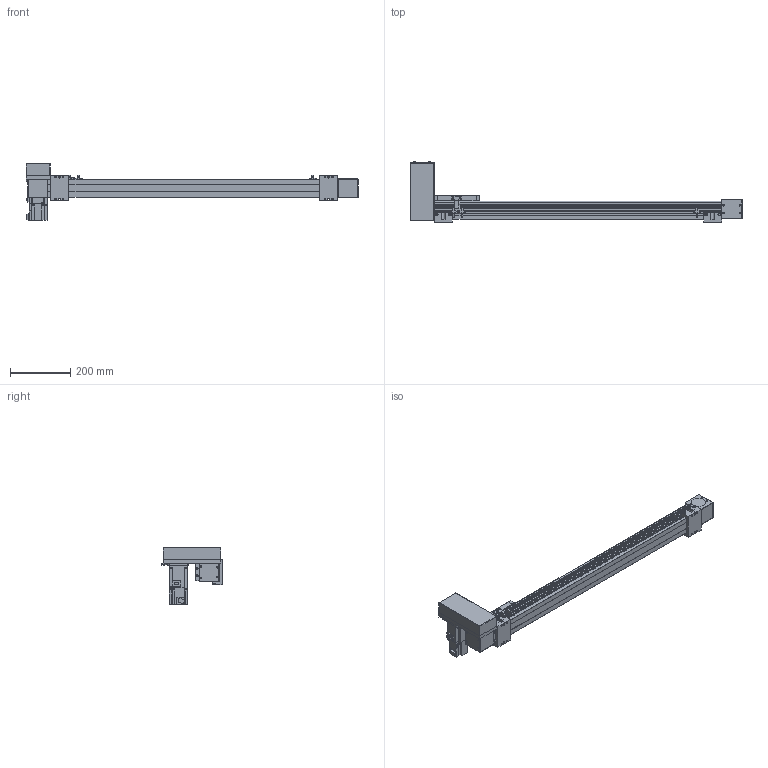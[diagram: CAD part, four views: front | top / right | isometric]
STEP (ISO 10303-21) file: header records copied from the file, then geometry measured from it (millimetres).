
FILE_DESCRIPTION(/* description */ ('STEP AP214'),/* implementation_level */ '2;1');
FILE_NAME(/* name */ 'SK60-P13-S800-RU-T40-C1-N(0)',/* time_stamp */ '2023-04-06T05:02:37+02:00',/* author */ ('License CC BY-ND 4.0'),/* organization */ ('CADENAS'),/* preprocessor_version */ 'ST-DEVELOPER v19.3',/* originating_system */ 'PARTsolutions',/* authorisation */ ' ');
FILE_SCHEMA (('AUTOMOTIVE_DESIGN {1 0 10303 214 3 1 1}'));
Length unit declared in the file: millimetre
Products named in the file (10): SK60-P13-S800-RU-T40-C1-N(0); PSC140-sensor; SK60-S450_seat; SK60-S450-BL-C1_slider; SK60_body3; SK60_body6; SK60-BL_body2; T40-p1; SK60-RU_fb; SK60-S800-RU-C1_body
Assembly tree (16 placements, depth 2):
  SK60-P13-S800-RU-T40-C1-N(0)
    PSC140-sensor  x3
    SK60-S450_seat  x2
    SK60-S450-BL-C1_slider
    SK60_body3  x3
    SK60_body6  x2
    SK60-BL_body2  x2
    T40-p1
    SK60-RU_fb
    SK60-S800-RU-C1_body
Bounding box: 1105.5 x 201 x 189.7 mm (x, y, z)
Volume: 4943048.5 mm3; surface area: 629892.5 mm2
Topology: 16 solids, 16 shells, 810 faces, 2048 edges, 1349 vertices
Faces by surface type: plane 524, cylinder 262, cone 22, torus 2
Full cylindrical faces by diameter (mm): 2.8 x3, 3.3 x4, 4 x2, 4.5 x30, 4.6 x3, 4.917 x16, 5 x6, 5.478 x4, 5.5 x19, 6.5 x4, 7 x2, 8 x4, 8.5 x4, 9.988 x4, 10 x8, 14 x1, 47 x3, 50 x2
Entity records: 18655 total; most frequent: DIRECTION 3184, CARTESIAN_POINT 3150, ORIENTED_EDGE 2940, EDGE_CURVE 1470, AXIS2_PLACEMENT_3D 1068, LINE 1048, VECTOR 1048, VERTEX_POINT 1034
